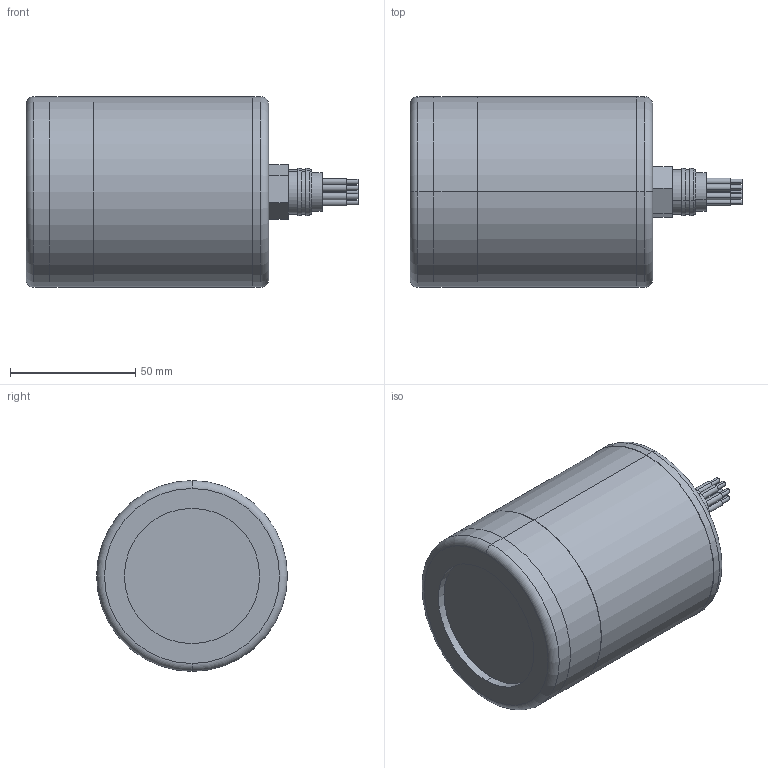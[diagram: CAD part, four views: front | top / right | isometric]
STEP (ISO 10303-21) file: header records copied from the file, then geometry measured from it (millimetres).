
FILE_DESCRIPTION (( 'STEP AP203' ), '1' );
FILE_NAME ('SeeStar_Light_Module.STEP', '2016-02-18T01:38:59', ( 'delete' ), ( 'Hewlett-Packard Company' ), 'SwSTEP 2.0', 'SolidWorks 2015', '' );
FILE_SCHEMA (( 'CONFIG_CONTROL_DESIGN' ));
Length unit declared in the file: inch
Products named in the file (17): LED_Driver_Board; o-ring-146_Stretched; 4-40_0p5_StandOff_MMC_92745A377_92745A377; Light_Housing_Body_SSL-MB_Light Housing; o-ring-014_AS568 - 014; Screw_4-40_0p25_MMC_91772A106_91772A106; Port_And_LED_Adapter_SSL-LED; o-ring-033_Stretched; LED_Power_Supply; LED_Board; Terminal_Strip_4Pin; Screw_6-32_0p25_91735A144; LED_Module_Port_SSL-L; SeeStar_Light_Module; LED_Module_Port_Retainer_SSL_LH; Light_Housing_Endcap_SSL-EC716_Connector hole; Subconn_MCBH8M
Assembly tree (23 placements, depth 2):
  SeeStar_Light_Module
    Light_Housing_Body_SSL-MB_Light Housing
    Port_And_LED_Adapter_SSL-LED
    LED_Board
    LED_Module_Port_SSL-L
    LED_Module_Port_Retainer_SSL_LH
    Light_Housing_Endcap_SSL-EC716_Connector hole
    Subconn_MCBH8M
    LED_Driver_Board
    4-40_0p5_StandOff_MMC_92745A377_92745A377  x4
    Screw_4-40_0p25_MMC_91772A106_91772A106  x2
    LED_Power_Supply
    Screw_6-32_0p25_91735A144  x2
    o-ring-146_Stretched  x2
    o-ring-014_AS568 - 014
    o-ring-033_Stretched
    Terminal_Strip_4Pin  x2
Bounding box: 132.52 x 76.2 x 76.2 mm (x, y, z)
Volume: 283161.4 mm3; surface area: 105205.1 mm2
Topology: 23 solids, 23 shells, 994 faces, 2501 edges, 1615 vertices
Faces by surface type: cylinder 521, plane 271, cone 108, torus 36, bspline 36, sphere 22
Entity records: 22753 total; most frequent: CARTESIAN_POINT 7865, ORIENTED_EDGE 2756, DIRECTION 2668, EDGE_CURVE 1378, AXIS2_PLACEMENT_3D 1066, VERTEX_POINT 888, EDGE_LOOP 650, ADVANCED_FACE 574
